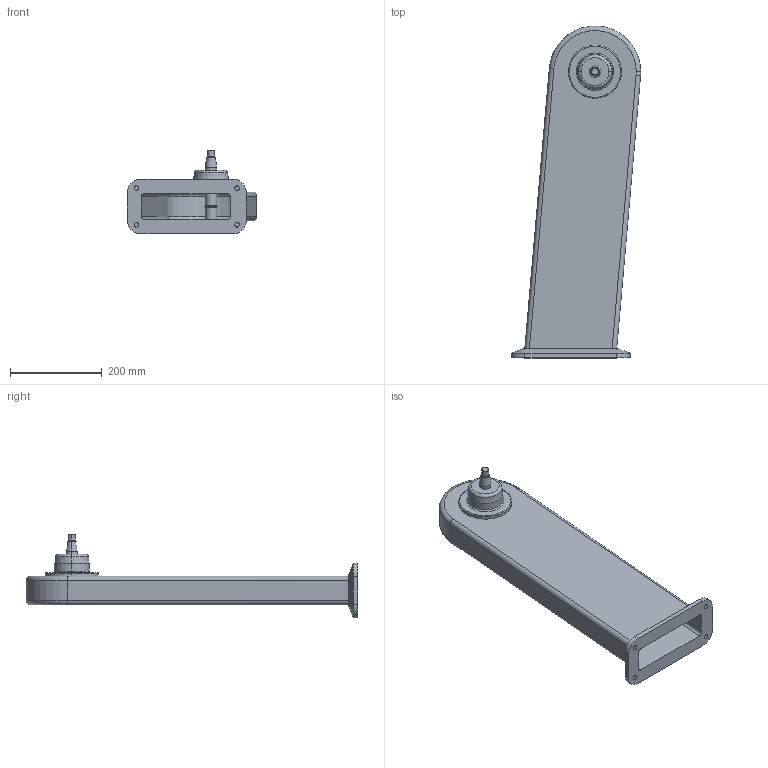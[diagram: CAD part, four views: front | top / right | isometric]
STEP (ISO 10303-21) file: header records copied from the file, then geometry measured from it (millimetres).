
FILE_DESCRIPTION (( 'STEP AP214' ), '1' );
FILE_NAME ('WP800_H625_+05.STEP', '2014-06-26T12:17:52', ( '' ), ( '' ), 'SwSTEP 2.0', 'SolidWorks 2014', '' );
FILE_SCHEMA (( 'AUTOMOTIVE_DESIGN' ));
Length unit declared in the file: millimetre
Products named in the file (1): WP800_H625_+05
Bounding box: 282.93 x 724.9 x 183.29 mm (x, y, z)
Volume: 1653205 mm3; surface area: 772669.9 mm2
Topology: 1 solids, 1 shells, 92 faces, 202 edges, 122 vertices
Faces by surface type: cylinder 36, plane 26, cone 16, torus 14
Entity records: 2564 total; most frequent: DIRECTION 484, CARTESIAN_POINT 441, ORIENTED_EDGE 404, EDGE_CURVE 202, AXIS2_PLACEMENT_3D 197, VERTEX_POINT 122, EDGE_LOOP 104, CIRCLE 104
